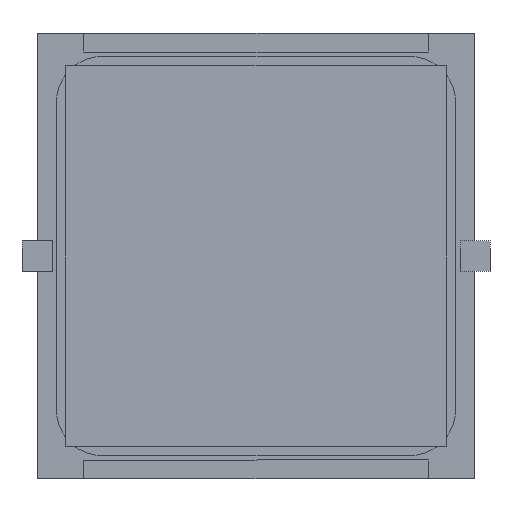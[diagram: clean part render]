
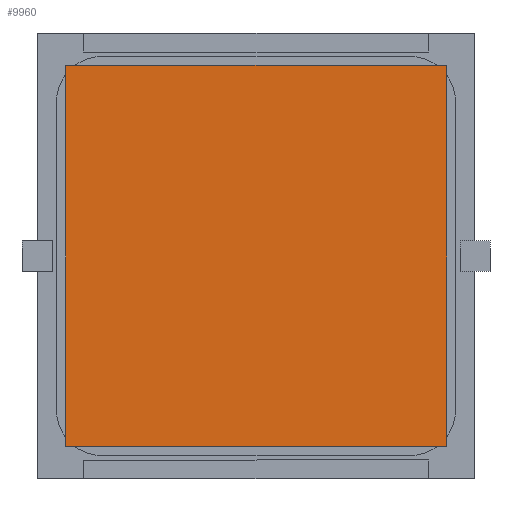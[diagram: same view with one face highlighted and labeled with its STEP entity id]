
A CAD part, front view. The second image highlights one B-rep face of the part: STEP entity #9960.
In plain terms, the highlighted planar face has unit normal (0, -1, 0).
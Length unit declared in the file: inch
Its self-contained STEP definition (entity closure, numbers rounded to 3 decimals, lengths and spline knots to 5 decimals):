
#121 = VECTOR ( 'NONE', #8418, 39.37008 ) ;
#1176 = VERTEX_POINT ( 'NONE', #7046 ) ;
#1326 = VECTOR ( 'NONE', #7312, 39.37008 ) ;
#1435 = LINE ( 'NONE', #11004, #121 ) ;
#1736 = EDGE_LOOP ( 'NONE', ( #11106, #5349, #3043, #2975 ) ) ;
#1889 = CARTESIAN_POINT ( 'NONE',  ( -0.5, -0.005, -0.5 ) ) ;
#1902 = CARTESIAN_POINT ( 'NONE',  ( 0.5, -0.005, 0.5 ) ) ;
#2112 = CARTESIAN_POINT ( 'NONE',  ( -0.5, -0.005, 0.5 ) ) ;
#2496 = LINE ( 'NONE', #9577, #9057 ) ;
#2975 = ORIENTED_EDGE ( 'NONE', *, *, #4845, .F. ) ;
#3043 = ORIENTED_EDGE ( 'NONE', *, *, #11304, .F. ) ;
#3390 = VERTEX_POINT ( 'NONE', #1902 ) ;
#3662 = DIRECTION ( 'NONE',  ( 0., 1., 0. ) ) ;
#4282 = DIRECTION ( 'NONE',  ( -1., 0., 0. ) ) ;
#4586 = PLANE ( 'NONE',  #7063 ) ;
#4845 = EDGE_CURVE ( 'NONE', #10398, #3390, #5990, .T. ) ;
#5086 = DIRECTION ( 'NONE',  ( 1., 0., 0. ) ) ;
#5349 = ORIENTED_EDGE ( 'NONE', *, *, #10416, .F. ) ;
#5678 = VERTEX_POINT ( 'NONE', #7029 ) ;
#5950 = VECTOR ( 'NONE', #5086, 39.37008 ) ;
#5990 = LINE ( 'NONE', #6688, #5950 ) ;
#6688 = CARTESIAN_POINT ( 'NONE',  ( -0.5, -0.005, 0.5 ) ) ;
#7029 = CARTESIAN_POINT ( 'NONE',  ( 0.5, -0.005, -0.5 ) ) ;
#7046 = CARTESIAN_POINT ( 'NONE',  ( -0.5, -0.005, -0.5 ) ) ;
#7063 = AXIS2_PLACEMENT_3D ( 'NONE', #2112, #3662, #9011 ) ;
#7312 = DIRECTION ( 'NONE',  ( 0., 0., 1. ) ) ;
#8418 = DIRECTION ( 'NONE',  ( 0., 0., -1. ) ) ;
#9011 = DIRECTION ( 'NONE',  ( 0., 0., 1. ) ) ;
#9057 = VECTOR ( 'NONE', #4282, 39.37008 ) ;
#9577 = CARTESIAN_POINT ( 'NONE',  ( -0.5, -0.005, -0.5 ) ) ;
#9635 = EDGE_CURVE ( 'NONE', #1176, #10398, #10880, .T. ) ;
#9960 = ADVANCED_FACE ( 'NONE', ( #10857 ), #4586, .F. ) ;
#10398 = VERTEX_POINT ( 'NONE', #10424 ) ;
#10416 = EDGE_CURVE ( 'NONE', #5678, #1176, #2496, .T. ) ;
#10424 = CARTESIAN_POINT ( 'NONE',  ( -0.5, -0.005, 0.5 ) ) ;
#10857 = FACE_OUTER_BOUND ( 'NONE', #1736, .T. ) ;
#10880 = LINE ( 'NONE', #1889, #1326 ) ;
#11004 = CARTESIAN_POINT ( 'NONE',  ( 0.5, -0.005, -0.5 ) ) ;
#11106 = ORIENTED_EDGE ( 'NONE', *, *, #9635, .F. ) ;
#11304 = EDGE_CURVE ( 'NONE', #3390, #5678, #1435, .T. ) ;
